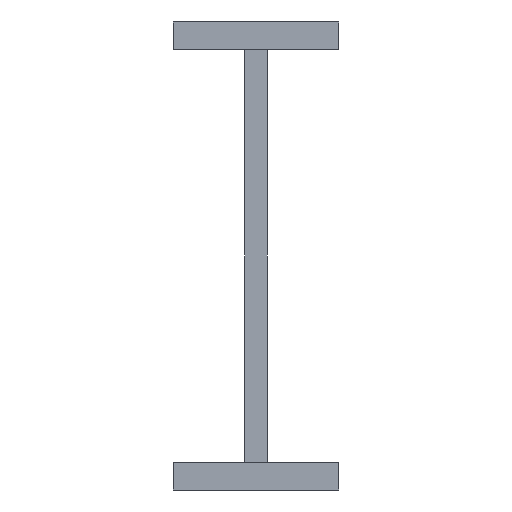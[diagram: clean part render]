
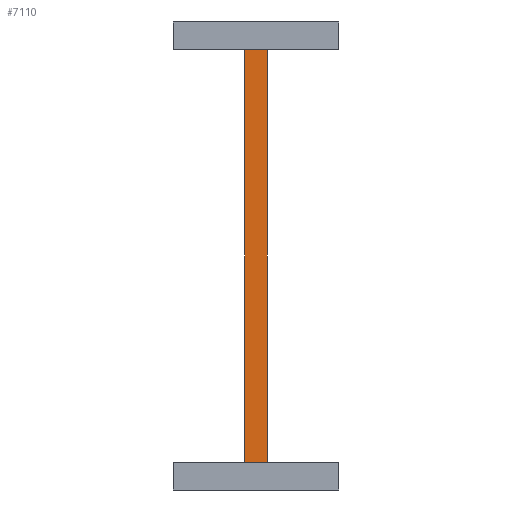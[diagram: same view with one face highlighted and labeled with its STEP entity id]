
A CAD part, left-side view. The second image highlights one B-rep face of the part: STEP entity #7110.
In plain terms, the highlighted planar face has unit normal (-1, 0, 0).
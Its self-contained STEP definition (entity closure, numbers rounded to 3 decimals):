
#4730=CARTESIAN_POINT('',(0.,4.,0.));
#4740=DIRECTION('',(0.,-1.,0.));
#4750=VECTOR('',#4740,1.);
#4760=LINE('',#4730,#4750);
#4770=CARTESIAN_POINT('',(0.,4.,0.));
#4780=VERTEX_POINT('',#4770);
#4790=CARTESIAN_POINT('',(0.,0.,0.));
#4800=VERTEX_POINT('',#4790);
#4810=EDGE_CURVE('',#4780,#4800,#4760,.T.);
#5170=CARTESIAN_POINT('',(0.,0.,75.));
#5180=VERTEX_POINT('',#5170);
#5230=CARTESIAN_POINT('',(0.,0.,75.));
#5240=DIRECTION('',(0.,-1.,0.));
#5250=VECTOR('',#5240,1.);
#5260=LINE('',#5230,#5250);
#5270=CARTESIAN_POINT('',(0.,4.,75.));
#5280=VERTEX_POINT('',#5270);
#5290=EDGE_CURVE('',#5280,#5180,#5260,.T.);
#5770=CARTESIAN_POINT('',(0.,4.,0.));
#5780=DIRECTION('',(0.,0.,1.));
#5790=VECTOR('',#5780,1.);
#5800=LINE('',#5770,#5790);
#5810=EDGE_CURVE('',#4780,#5280,#5800,.T.);
#6950=CARTESIAN_POINT('',(0.,0.,0.));
#6960=DIRECTION('',(-1.,0.,0.));
#6970=DIRECTION('',(0.,1.,0.));
#6980=AXIS2_PLACEMENT_3D('',#6950,#6960,#6970);
#6990=PLANE('',#6980);
#7000=ORIENTED_EDGE('',*,*,#5810,.F.);
#7010=ORIENTED_EDGE('',*,*,#5290,.F.);
#7020=CARTESIAN_POINT('',(0.,0.,0.));
#7030=DIRECTION('',(0.,0.,1.));
#7040=VECTOR('',#7030,1.);
#7050=LINE('',#7020,#7040);
#7060=EDGE_CURVE('',#4800,#5180,#7050,.T.);
#7070=ORIENTED_EDGE('',*,*,#7060,.T.);
#7080=ORIENTED_EDGE('',*,*,#4810,.T.);
#7090=EDGE_LOOP('',(#7080,#7070,#7010,#7000));
#7100=FACE_OUTER_BOUND('',#7090,.T.);
#7110=ADVANCED_FACE('',(#7100),#6990,.T.);
